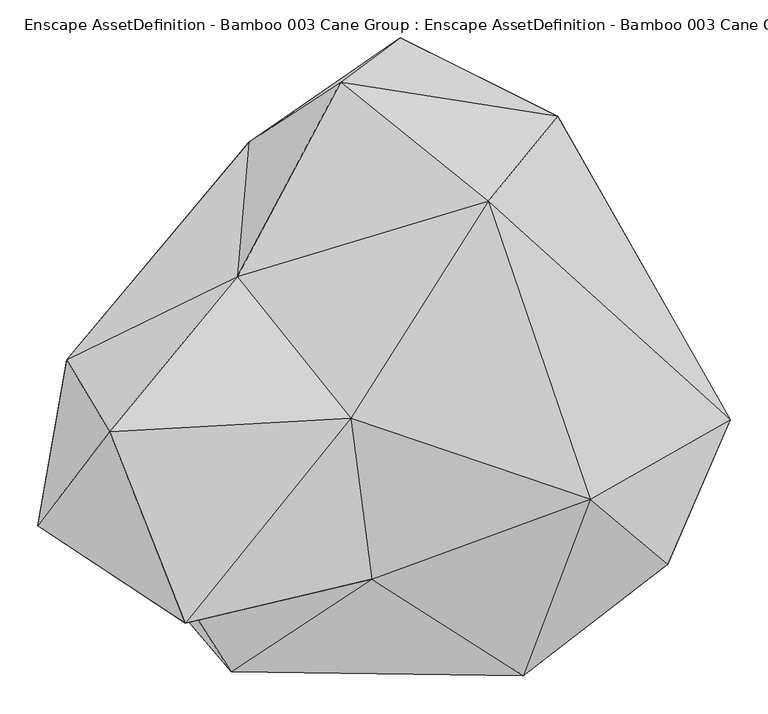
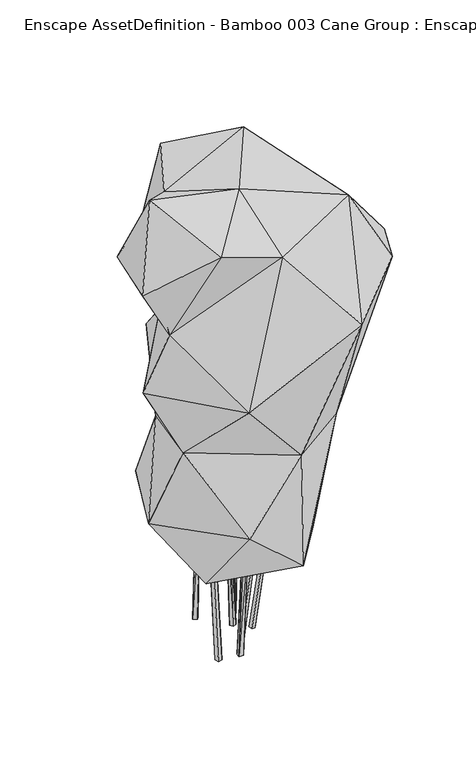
"""IFC4 building model written with IfcOpenShell, lengths in millimetres: geographic element geometry, Enscape AssetDefinition - Bamboo 003 Cane Group : Enscape AssetDefinition - Bamboo 003 Cane Group."""

from ifc_helpers import new_model, si_unit, origin, place, context, project, spatial, triangles, source, transform, mapped, element, save


def enscape_assetdefinition_bamboo_003_cane_group_enscape_e3d7d0c9(model_context):
    return source(origin(), model_context, "Body", "Tessellation", [
        triangles([(10.3680002, 428.7959925, 1527.8980179), (298.8480014, 383.5169975, 1369.1899727), (89.5860016, 487.833995, 1310.622908), (-112.5430033, 219.3030021, 1092.7359896), (-111.5870024, 348.6520108, 1304.8879383), (206.589007, 270.3509944, 1614.9100033), (234.0239967, 100.0880041, 724.6950096), (-75.1440007, 366.865979, 933.0099833), (240.4109978, 244.666988, 1053.4709444), (46.3910001, 317.4749894, 728.1979935), (245.0989929, -83.0179977, 355.4099922), (-158.1800069, 286.6299972, 471.6070058), (-158.9739992, 164.6910012, 747.3830143), (-319.2669949, -68.7670053, 547.3020221), (-235.8860015, -131.7259985, 817.5099838), (131.8600019, 323.0319903, 467.0859881), (-7.5049999, 290.6549877, 339.8329997), (-159.0380033, -137.4559994, 312.6999902), (77.757999, -315.1620129, 403.7269921), (-112.732999, -322.5279877, 572.5899771), (300.6700014, -125.3210024, 770.4989725), (75.5459974, -305.332998, 804.286009), (253.1479929, -360.8120244, 1254.5500225), (445.2860106, -212.364999, 1349.3360973), (528.7439979, -19.9539987, 1303.530899), (342.3000003, -125.9250081, 1557.7480854), (-280.2780048, -127.1939986, 1261.1970005), (51.8399998, -232.2200007, 1495.681089), (-135.1240015, -355.2159997, 1062.0510893), (23.7720001, -18.4419998, 1626.1969597), (-296.3790024, -36.4810013, 1707.7159664), (-195.8739997, -290.9199969, 1615.3149204), (-127.0199994, 169.9679865, 1555.0530464), (-392.4950106, -161.2760026, 1465.3249477), (-353.7850187, 59.7670005, 1461.4699505), (-354.0729735, -98.1829968, 1057.5440243), (-107.5190004, -90.1829946, 384.1399973), (-102.3520011, -92.6870024, -12.6250004), (-120.2559955, -93.3029986, 383.5300055), (-117.1389982, -106.055, 383.6799963), (-98.784995, -107.2750018, -12.4519993), (-84.2149995, -103.7039989, -11.7549999), (-87.7799981, -89.1169986, -11.9260003), (-104.4019941, -102.9340059, 384.2900245), (-41.1289984, 104.2210004, 429.8860059), (-41.7470021, 114.564001, -1.249), (-52.2959994, 123.7849952, -1.376), (-50.9620011, 110.3019973, 430.7779936), (-49.0700017, 102.6209981, -1.123), (-61.1450005, 111.6069958, -1.249), (-45.6630013, 93.5870019, 428.9949992), (-56.4810001, 99.3540009, 429.8860059), (60.4580012, 93.4500009, -4.4069999), (72.3719951, 89.3589988, 437.0709961), (74.7890033, 100.1870079, 436.4260137), (56.2230035, 80.6270009, -4.4990001), (69.5630005, 76.7539996, -4.4069999), (83.529004, 87.2540037, 436.4260137), (73.5300049, 90.066005, -4.3149999), (85.7350012, 98.3899973, 435.7819759), (79.9619978, -0.562, -7.4119999), (147.6439949, -12.6180003, 417.4130027), (67.226002, -3.716, -5.4390002), (145.0060018, -1.709, 417.8199909), (70.344003, -16.604001, -5.92), (134.2240019, -4.3779997, 419.4910008), (83.0779959, -13.4489997, -7.8929997), (136.8629941, -15.2879999, 419.0829952), (-13.1259998, -96.1909945, -17.3029988), (-12.9099996, -109.7210008, -17.2109998), (-2.8210002, -108.041007, 423.5309795), (-13.9289997, -108.7850023, 424.1759983), (-26.6089999, -95.0319991, -17.3950013), (-27.0329997, -109.1620051, -17.3029988), (-1.083, -119.0359936, 422.8859971), (-12.5559991, -120.2409982, 423.5309795), (11.2519999, -52.111999, -7.9889996), (65.3379995, -62.9710019, 375.6949822), (14.0659996, -63.7200023, -8.3729997), (-0.25, -54.952001, -6.418), (62.9550009, -53.1449983, 376.0190177), (2.565, -66.560999, -6.8020001), (53.2190036, -55.5489985, 377.3489874), (55.6019976, -65.3759968, 377.0250246), (31.445998, 25.5870011, -8.0739996), (14.7930003, 38.3750014, 358.0580137), (23.9079997, 37.1630001, -7.9800004), (43.7289987, 31.9109996, -8.1679999), (22.070001, 29.0730006, 358.6010038), (32.0070012, 35.4590002, 359.1439939), (36.4190002, 44.3550007, -8.0739996), (24.8359999, 45.4009988, 358.6010038)], [[92, 87, 86], [92, 91, 87], [91, 92, 90], [91, 90, 88], [88, 90, 89], [88, 89, 85], [85, 86, 87], [85, 89, 86], [82, 78, 84], [82, 79, 78], [82, 84, 83], [82, 83, 80], [80, 83, 81], [80, 81, 77], [77, 78, 79], [77, 81, 78], [74, 75, 76], [74, 70, 75], [74, 76, 72], [74, 72, 73], [73, 72, 71], [73, 71, 69], [69, 75, 70], [69, 71, 75], [65, 62, 68], [65, 67, 62], [65, 68, 66], [65, 66, 63], [63, 66, 64], [63, 64, 61], [61, 62, 67], [61, 64, 62], [57, 60, 58], [57, 59, 60], [57, 58, 54], [57, 54, 56], [56, 54, 55], [56, 55, 53], [53, 60, 59], [53, 55, 60], [50, 51, 52], [50, 49, 51], [50, 52, 48], [50, 48, 47], [47, 48, 45], [47, 45, 46], [46, 51, 49], [46, 45, 51], [43, 37, 44], [43, 44, 42], [40, 42, 44], [40, 41, 42], [41, 40, 39], [41, 39, 38], [38, 37, 43], [38, 39, 37], [36, 29, 27], [4, 36, 27], [27, 5, 4], [35, 27, 34], [5, 27, 35], [5, 35, 33], [35, 34, 31], [33, 35, 31], [32, 34, 27], [32, 31, 34], [30, 33, 31], [30, 31, 32], [6, 33, 30], [28, 27, 29], [28, 32, 27], [28, 30, 32], [26, 30, 28], [6, 30, 26], [25, 6, 26], [25, 26, 24], [23, 26, 28], [28, 29, 23], [26, 23, 24], [24, 23, 21], [25, 24, 21], [11, 21, 19], [23, 29, 22], [21, 23, 22], [21, 22, 19], [29, 36, 15], [4, 15, 36], [29, 15, 22], [22, 15, 20], [22, 20, 19], [15, 14, 20], [20, 18, 19], [14, 18, 20], [19, 18, 11], [11, 18, 17], [16, 11, 17], [12, 18, 14], [16, 17, 12], [12, 17, 18], [4, 13, 15], [13, 12, 14], [13, 14, 15], [4, 8, 13], [13, 8, 10], [16, 12, 10], [13, 10, 12], [7, 21, 11], [10, 7, 16], [7, 11, 16], [25, 21, 7], [8, 9, 10], [4, 9, 8], [7, 10, 9], [2, 7, 9], [25, 2, 6], [25, 7, 2], [6, 1, 33], [2, 1, 6], [33, 1, 5], [9, 4, 3], [3, 2, 9], [1, 2, 3], [3, 4, 5], [3, 5, 1]], closed=False),
    ])


if __name__ == "__main__":
    model = new_model("IFC4")
    model_context = context("Model", 3, world=origin())
    ifc_project = project(units=[si_unit("LENGTHUNIT", "METRE", prefix="MILLI")], contexts=[model_context])
    site = spatial("IfcSite", under=ifc_project)
    building = spatial("IfcBuilding", under=site)
    placement = place(None, origin())
    enscape_assetdefinition_bamboo_003_cane_group_enscape_shape = enscape_assetdefinition_bamboo_003_cane_group_enscape_e3d7d0c9(model_context)
    element("IfcGeographicElement", 1, ObjectType="Enscape AssetDefinition - Bamboo 003 Cane Group : Enscape AssetDefinition - Bamboo 003 Cane Group", at=placement, inside=building, context=model_context, shape_type="MappedRepresentation", body=[
        mapped(enscape_assetdefinition_bamboo_003_cane_group_enscape_shape, transform((0.0, 0.0, 0.0), x_axis=(1.0, 0.0, 0.0), y_axis=(0.0, 1.0, 0.0), z_axis=(0.0, 0.0, 1.0))),
    ])
    save(model, "model.ifc")
